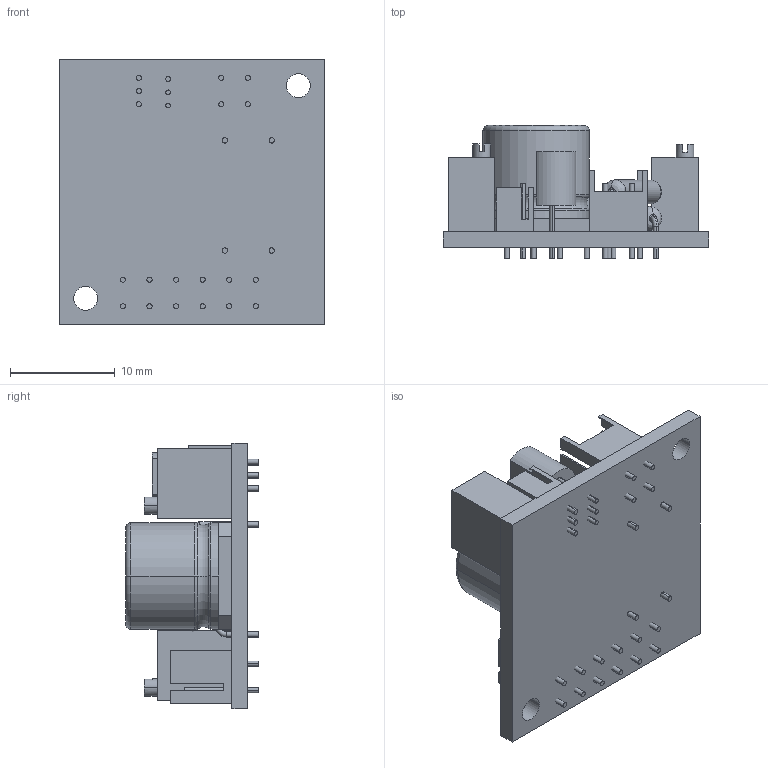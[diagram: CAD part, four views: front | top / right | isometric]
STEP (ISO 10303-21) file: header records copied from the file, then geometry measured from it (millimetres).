
FILE_DESCRIPTION((''),'2;1');
FILE_NAME('INTELLI-INCH_ASM','2008-10-01T',('yeevh'),(''),'PRO/ENGINEER BY PARAMETRIC TECHNOLOGY CORPORATION, 2006300','PRO/ENGINEER BY PARAMETRIC TECHNOLOGY CORPORATION, 2006300','');
FILE_SCHEMA(('CONFIG_CONTROL_DESIGN'));
Length unit declared in the file: inch
Products named in the file (10): PCB_5; POT_2; COIL_2; RESISTOR_2; RESISTOR_1; CAPACITOR_6; CONNECTOR_10PIN_MINI; CONNECTOR_4PIN_MINI; CONNECTOR_3PIN_MINI; INTELLI-INCH_ASM
Assembly tree (10 placements, depth 2):
  INTELLI-INCH_ASM
    PCB_5
    POT_2  x2
    COIL_2
    RESISTOR_2
    RESISTOR_1
    CAPACITOR_6
    CONNECTOR_10PIN_MINI
    CONNECTOR_4PIN_MINI
    CONNECTOR_3PIN_MINI
Bounding box: 25.4 x 12.7 x 25.4 mm (x, y, z)
Volume: 2563.3 mm3; surface area: 3762.9 mm2
Topology: 10 solids, 10 shells, 311 faces, 694 edges, 452 vertices
Faces by surface type: plane 168, cylinder 119, torus 16, bspline 8
Entity records: 8881 total; most frequent: CARTESIAN_POINT 1750, DIRECTION 1554, ORIENTED_EDGE 1328, EDGE_CURVE 664, AXIS2_PLACEMENT_3D 588, VERTEX_POINT 432, VECTOR 378, LINE 378
